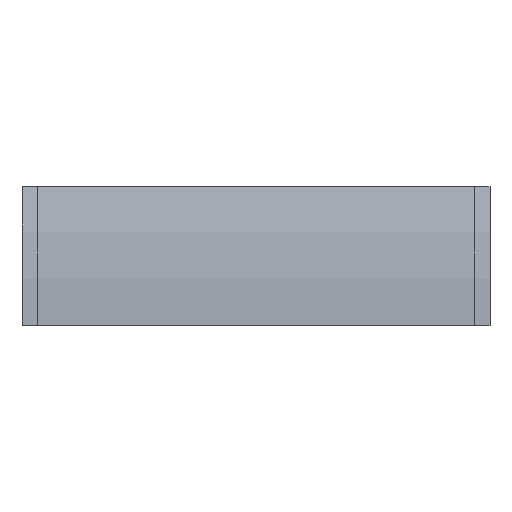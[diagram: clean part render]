
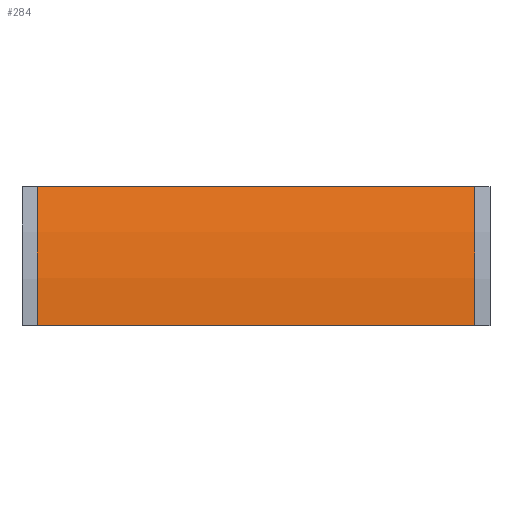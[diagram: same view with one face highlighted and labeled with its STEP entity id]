
A CAD part, front view. The second image highlights one B-rep face of the part: STEP entity #284.
In plain terms, the highlighted cylindrical face has radius 568 mm (diameter 1136 mm), a partial arc.
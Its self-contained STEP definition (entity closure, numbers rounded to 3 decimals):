
#122 = FACE_OUTER_BOUND ( 'NONE', #983, .T. ) ;
#127 = CYLINDRICAL_SURFACE ( 'NONE', #496, 568. ) ;
#152 = LINE ( 'NONE', #645, #155 ) ;
#155 = VECTOR ( 'NONE', #646, 1000. ) ;
#156 = LINE ( 'NONE', #643, #161 ) ;
#161 = VECTOR ( 'NONE', #651, 1000. ) ;
#162 = CIRCLE ( 'NONE', #507, 568. ) ;
#183 = CIRCLE ( 'NONE', #592, 568. ) ;
#284 = ADVANCED_FACE ( 'NONE', ( #122 ), #127, .T. ) ;
#496 = AXIS2_PLACEMENT_3D ( 'NONE', #925, #926, #924 ) ;
#507 = AXIS2_PLACEMENT_3D ( 'NONE', #655, #656, #657 ) ;
#531 = VERTEX_POINT ( 'NONE', #911 ) ;
#533 = VERTEX_POINT ( 'NONE', #913 ) ;
#539 = VERTEX_POINT ( 'NONE', #614 ) ;
#541 = VERTEX_POINT ( 'NONE', #616 ) ;
#592 = AXIS2_PLACEMENT_3D ( 'NONE', #693, #694, #695 ) ;
#614 = CARTESIAN_POINT ( 'NONE',  ( 304.25, -68., 0. ) ) ;
#616 = CARTESIAN_POINT ( 'NONE',  ( -304.25, -68., 0. ) ) ;
#643 = CARTESIAN_POINT ( 'NONE',  ( -304.25, -68., 0. ) ) ;
#645 = CARTESIAN_POINT ( 'NONE',  ( -304.25, -33.745, 194.267 ) ) ;
#646 = DIRECTION ( 'NONE',  ( 1., 0., 0. ) ) ;
#651 = DIRECTION ( 'NONE',  ( 1., 0., 0. ) ) ;
#655 = CARTESIAN_POINT ( 'NONE',  ( 304.25, 500., 0. ) ) ;
#656 = DIRECTION ( 'NONE',  ( 1., 0., 0. ) ) ;
#657 = DIRECTION ( 'NONE',  ( 0., 0., -1. ) ) ;
#693 = CARTESIAN_POINT ( 'NONE',  ( -304.25, 500., 0. ) ) ;
#694 = DIRECTION ( 'NONE',  ( 1., 0., 0. ) ) ;
#695 = DIRECTION ( 'NONE',  ( 0., 0., -1. ) ) ;
#808 = EDGE_CURVE ( 'NONE', #533, #531, #152, .T. ) ;
#811 = EDGE_CURVE ( 'NONE', #541, #539, #156, .T. ) ;
#813 = EDGE_CURVE ( 'NONE', #531, #539, #162, .T. ) ;
#828 = EDGE_CURVE ( 'NONE', #533, #541, #183, .T. ) ;
#911 = CARTESIAN_POINT ( 'NONE',  ( 304.25, -33.745, 194.267 ) ) ;
#913 = CARTESIAN_POINT ( 'NONE',  ( -304.25, -33.745, 194.267 ) ) ;
#924 = DIRECTION ( 'NONE',  ( 0., 0., -1. ) ) ;
#925 = CARTESIAN_POINT ( 'NONE',  ( 0., 500., 0. ) ) ;
#926 = DIRECTION ( 'NONE',  ( 1., 0., 0. ) ) ;
#967 = ORIENTED_EDGE ( 'NONE', *, *, #811, .T. ) ;
#968 = ORIENTED_EDGE ( 'NONE', *, *, #828, .T. ) ;
#969 = ORIENTED_EDGE ( 'NONE', *, *, #808, .F. ) ;
#973 = ORIENTED_EDGE ( 'NONE', *, *, #813, .F. ) ;
#983 = EDGE_LOOP ( 'NONE', ( #973, #969, #968, #967 ) ) ;
